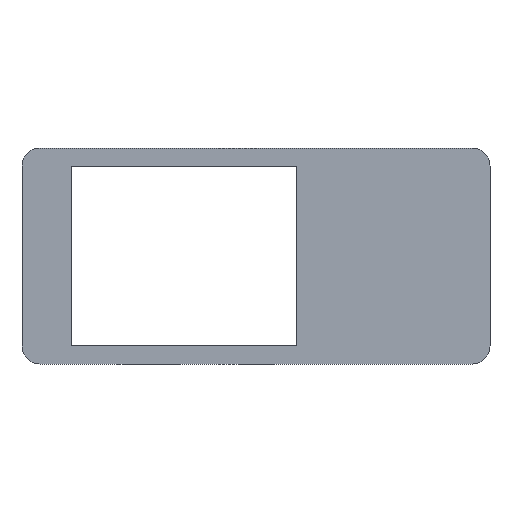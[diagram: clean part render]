
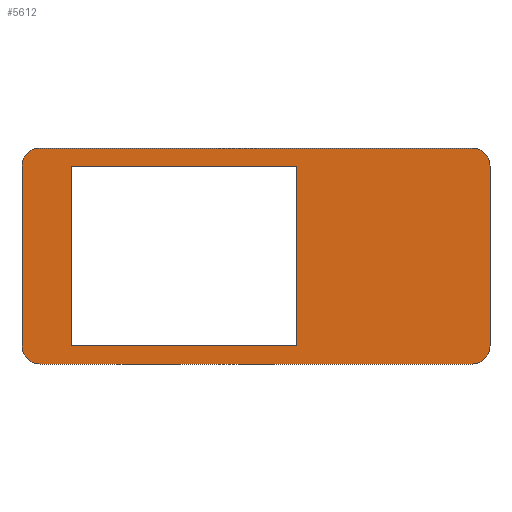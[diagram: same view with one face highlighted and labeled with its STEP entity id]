
A CAD part, front view. The second image highlights one B-rep face of the part: STEP entity #5612.
In plain terms, the highlighted planar face has unit normal (0, -1, 0).
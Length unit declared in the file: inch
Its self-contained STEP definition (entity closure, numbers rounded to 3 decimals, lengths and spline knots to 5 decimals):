
#398 = CARTESIAN_POINT ( 'NONE',  ( -2.5625, 0., 1.24844 ) ) ;
#514 = LINE ( 'NONE', #10178, #6915 ) ;
#705 = CIRCLE ( 'NONE', #8116, 0.25 ) ;
#953 = DIRECTION ( 'NONE',  ( 0., 0., 1. ) ) ;
#1017 = EDGE_CURVE ( 'NONE', #8598, #3159, #4233, .T. ) ;
#1056 = EDGE_CURVE ( 'NONE', #8598, #12396, #6397, .T. ) ;
#1067 = VERTEX_POINT ( 'NONE', #10768 ) ;
#1142 = CARTESIAN_POINT ( 'NONE',  ( -3., 0., -1.25 ) ) ;
#1182 = VECTOR ( 'NONE', #6877, 39.37008 ) ;
#1219 = CARTESIAN_POINT ( 'NONE',  ( -3.25, 0., 1.5 ) ) ;
#1245 = EDGE_CURVE ( 'NONE', #7246, #12358, #6367, .T. ) ;
#1537 = CARTESIAN_POINT ( 'NONE',  ( 0., 0., 0. ) ) ;
#1591 = VECTOR ( 'NONE', #9251, 39.37008 ) ;
#1876 = EDGE_CURVE ( 'NONE', #2024, #12358, #705, .T. ) ;
#1937 = ORIENTED_EDGE ( 'NONE', *, *, #1876, .T. ) ;
#2024 = VERTEX_POINT ( 'NONE', #7762 ) ;
#2098 = AXIS2_PLACEMENT_3D ( 'NONE', #1537, #9061, #2538 ) ;
#2126 = VERTEX_POINT ( 'NONE', #8251 ) ;
#2324 = VECTOR ( 'NONE', #953, 39.37008 ) ;
#2348 = LINE ( 'NONE', #398, #9891 ) ;
#2538 = DIRECTION ( 'NONE',  ( 0., 0., -1. ) ) ;
#2601 = CARTESIAN_POINT ( 'NONE',  ( -3.25, 0., -1.25 ) ) ;
#2767 = EDGE_CURVE ( 'NONE', #1067, #6326, #12049, .T. ) ;
#3159 = VERTEX_POINT ( 'NONE', #6473 ) ;
#3243 = ORIENTED_EDGE ( 'NONE', *, *, #5595, .T. ) ;
#3248 = DIRECTION ( 'NONE',  ( 0., -1., 0. ) ) ;
#3280 = FACE_BOUND ( 'NONE', #6081, .T. ) ;
#3523 = DIRECTION ( 'NONE',  ( -1., 0., 0. ) ) ;
#3536 = AXIS2_PLACEMENT_3D ( 'NONE', #9837, #3248, #7073 ) ;
#3713 = CARTESIAN_POINT ( 'NONE',  ( -2.5625, 0., 1.24844 ) ) ;
#3744 = VECTOR ( 'NONE', #11759, 39.37008 ) ;
#4105 = CARTESIAN_POINT ( 'NONE',  ( -3.25, 0., 1.5 ) ) ;
#4173 = CARTESIAN_POINT ( 'NONE',  ( -3., 0., 1.25 ) ) ;
#4233 = LINE ( 'NONE', #4105, #1182 ) ;
#4818 = CARTESIAN_POINT ( 'NONE',  ( 3., 0., -1.25 ) ) ;
#4874 = DIRECTION ( 'NONE',  ( 0., -1., 0. ) ) ;
#5062 = EDGE_LOOP ( 'NONE', ( #10674, #11866, #6656, #1937, #7195, #11067, #5258, #6062 ) ) ;
#5205 = DIRECTION ( 'NONE',  ( -1., 0., 0. ) ) ;
#5212 = CARTESIAN_POINT ( 'NONE',  ( -3., 0., 1.5 ) ) ;
#5258 = ORIENTED_EDGE ( 'NONE', *, *, #1017, .F. ) ;
#5301 = LINE ( 'NONE', #3713, #2324 ) ;
#5417 = CARTESIAN_POINT ( 'NONE',  ( 3.25, 0., 1.25 ) ) ;
#5595 = EDGE_CURVE ( 'NONE', #2126, #1067, #2348, .T. ) ;
#5612 = ADVANCED_FACE ( 'NONE', ( #3280, #7109 ), #9932, .T. ) ;
#6062 = ORIENTED_EDGE ( 'NONE', *, *, #1056, .T. ) ;
#6081 = EDGE_LOOP ( 'NONE', ( #9295, #7172, #8156, #3243 ) ) ;
#6315 = VERTEX_POINT ( 'NONE', #10013 ) ;
#6326 = VERTEX_POINT ( 'NONE', #11779 ) ;
#6329 = CIRCLE ( 'NONE', #7936, 0.25 ) ;
#6367 = LINE ( 'NONE', #10192, #1591 ) ;
#6397 = CIRCLE ( 'NONE', #12210, 0.25 ) ;
#6473 = CARTESIAN_POINT ( 'NONE',  ( 3., 0., 1.5 ) ) ;
#6656 = ORIENTED_EDGE ( 'NONE', *, *, #7629, .F. ) ;
#6877 = DIRECTION ( 'NONE',  ( 1., 0., 0. ) ) ;
#6891 = VERTEX_POINT ( 'NONE', #2601 ) ;
#6915 = VECTOR ( 'NONE', #3523, 39.37008 ) ;
#6937 = DIRECTION ( 'NONE',  ( 0., -1., 0. ) ) ;
#7073 = DIRECTION ( 'NONE',  ( 0., 0., -1. ) ) ;
#7109 = FACE_OUTER_BOUND ( 'NONE', #5062, .T. ) ;
#7172 = ORIENTED_EDGE ( 'NONE', *, *, #7233, .T. ) ;
#7195 = ORIENTED_EDGE ( 'NONE', *, *, #1245, .F. ) ;
#7219 = VECTOR ( 'NONE', #7285, 39.37008 ) ;
#7221 = CARTESIAN_POINT ( 'NONE',  ( 0.5625, 0., 1.24844 ) ) ;
#7233 = EDGE_CURVE ( 'NONE', #6326, #6315, #514, .T. ) ;
#7246 = VERTEX_POINT ( 'NONE', #5417 ) ;
#7285 = DIRECTION ( 'NONE',  ( 0., 0., -1. ) ) ;
#7629 = EDGE_CURVE ( 'NONE', #2024, #7753, #9093, .T. ) ;
#7665 = DIRECTION ( 'NONE',  ( 0., 0., -1. ) ) ;
#7753 = VERTEX_POINT ( 'NONE', #8581 ) ;
#7762 = CARTESIAN_POINT ( 'NONE',  ( 3., 0., -1.5 ) ) ;
#7934 = LINE ( 'NONE', #1219, #3744 ) ;
#7936 = AXIS2_PLACEMENT_3D ( 'NONE', #1142, #8913, #7665 ) ;
#7939 = DIRECTION ( 'NONE',  ( 0., 0., -1. ) ) ;
#8032 = CARTESIAN_POINT ( 'NONE',  ( -3.25, 0., -1.5 ) ) ;
#8116 = AXIS2_PLACEMENT_3D ( 'NONE', #4818, #4874, #12344 ) ;
#8156 = ORIENTED_EDGE ( 'NONE', *, *, #8373, .T. ) ;
#8251 = CARTESIAN_POINT ( 'NONE',  ( -2.5625, 0., 1.24844 ) ) ;
#8373 = EDGE_CURVE ( 'NONE', #6315, #2126, #5301, .T. ) ;
#8581 = CARTESIAN_POINT ( 'NONE',  ( -3., 0., -1.5 ) ) ;
#8590 = EDGE_CURVE ( 'NONE', #6891, #7753, #6329, .T. ) ;
#8598 = VERTEX_POINT ( 'NONE', #5212 ) ;
#8724 = VECTOR ( 'NONE', #5205, 39.37008 ) ;
#8913 = DIRECTION ( 'NONE',  ( 0., -1., 0. ) ) ;
#8990 = EDGE_CURVE ( 'NONE', #7246, #3159, #11154, .T. ) ;
#9061 = DIRECTION ( 'NONE',  ( 0., -1., 0. ) ) ;
#9093 = LINE ( 'NONE', #8032, #8724 ) ;
#9251 = DIRECTION ( 'NONE',  ( 0., 0., -1. ) ) ;
#9295 = ORIENTED_EDGE ( 'NONE', *, *, #2767, .T. ) ;
#9701 = CARTESIAN_POINT ( 'NONE',  ( 3.25, 0., -1.25 ) ) ;
#9837 = CARTESIAN_POINT ( 'NONE',  ( 3., 0., 1.25 ) ) ;
#9891 = VECTOR ( 'NONE', #10054, 39.37008 ) ;
#9932 = PLANE ( 'NONE',  #2098 ) ;
#10013 = CARTESIAN_POINT ( 'NONE',  ( -2.5625, 0., -1.24844 ) ) ;
#10054 = DIRECTION ( 'NONE',  ( 1., 0., 0. ) ) ;
#10132 = CARTESIAN_POINT ( 'NONE',  ( -3.25, 0., 1.25 ) ) ;
#10178 = CARTESIAN_POINT ( 'NONE',  ( -2.5625, 0., -1.24844 ) ) ;
#10192 = CARTESIAN_POINT ( 'NONE',  ( 3.25, 0., 1.5 ) ) ;
#10674 = ORIENTED_EDGE ( 'NONE', *, *, #11062, .F. ) ;
#10768 = CARTESIAN_POINT ( 'NONE',  ( 0.5625, 0., 1.24844 ) ) ;
#11062 = EDGE_CURVE ( 'NONE', #6891, #12396, #7934, .T. ) ;
#11067 = ORIENTED_EDGE ( 'NONE', *, *, #8990, .T. ) ;
#11154 = CIRCLE ( 'NONE', #3536, 0.25 ) ;
#11759 = DIRECTION ( 'NONE',  ( 0., 0., 1. ) ) ;
#11779 = CARTESIAN_POINT ( 'NONE',  ( 0.5625, 0., -1.24844 ) ) ;
#11866 = ORIENTED_EDGE ( 'NONE', *, *, #8590, .T. ) ;
#12049 = LINE ( 'NONE', #7221, #7219 ) ;
#12210 = AXIS2_PLACEMENT_3D ( 'NONE', #4173, #6937, #7939 ) ;
#12344 = DIRECTION ( 'NONE',  ( 0., 0., -1. ) ) ;
#12358 = VERTEX_POINT ( 'NONE', #9701 ) ;
#12396 = VERTEX_POINT ( 'NONE', #10132 ) ;
